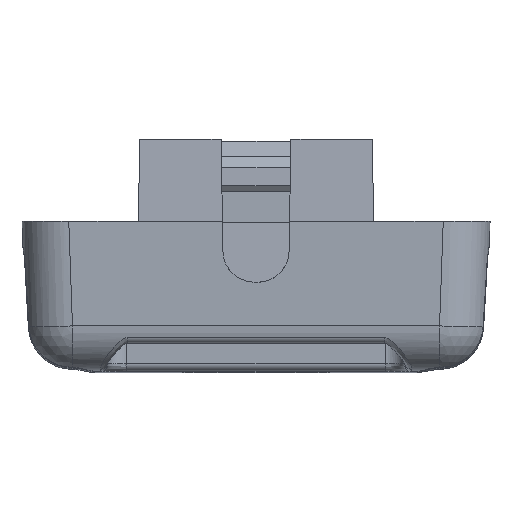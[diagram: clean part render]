
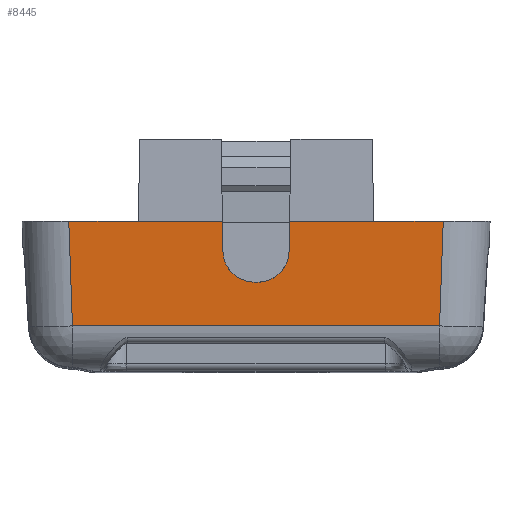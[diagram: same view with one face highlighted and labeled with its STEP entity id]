
A CAD part, top view. The second image highlights one B-rep face of the part: STEP entity #8445.
In plain terms, the highlighted planar face has unit normal (0, -0.035, 0.999).
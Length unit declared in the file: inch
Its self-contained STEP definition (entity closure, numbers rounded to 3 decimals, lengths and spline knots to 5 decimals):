
#135 = DIRECTION ( 'NONE',  ( 1., 0., 0. ) ) ;
#330 = VERTEX_POINT ( 'NONE', #2145 ) ;
#372 = ORIENTED_EDGE ( 'NONE', *, *, #6498, .F. ) ;
#428 = CARTESIAN_POINT ( 'NONE',  ( 7.00197, -2.20472, 1.1811 ) ) ;
#558 = VECTOR ( 'NONE', #7890, 39.37008 ) ;
#592 = EDGE_CURVE ( 'NONE', #3292, #8150, #4091, .T. ) ;
#778 = ORIENTED_EDGE ( 'NONE', *, *, #3095, .F. ) ;
#888 = LINE ( 'NONE', #7531, #7727 ) ;
#967 = CARTESIAN_POINT ( 'NONE',  ( 7.38361, -2.20472, 1.1811 ) ) ;
#990 = ORIENTED_EDGE ( 'NONE', *, *, #8311, .T. ) ;
#1033 = VERTEX_POINT ( 'NONE', #5227 ) ;
#1079 = ORIENTED_EDGE ( 'NONE', *, *, #7986, .F. ) ;
#1210 = CARTESIAN_POINT ( 'NONE',  ( 7.03654, -2.35827, 1.17574 ) ) ;
#1274 = PLANE ( 'NONE',  #1405 ) ;
#1320 = VERTEX_POINT ( 'NONE', #4408 ) ;
#1326 = CARTESIAN_POINT ( 'NONE',  ( 6.49606, -2.20472, 1.1811 ) ) ;
#1401 = DIRECTION ( 'NONE',  ( -1., 0., 0. ) ) ;
#1405 = AXIS2_PLACEMENT_3D ( 'NONE', #7251, #6704, #1401 ) ;
#1456 = VERTEX_POINT ( 'NONE', #7988 ) ;
#1557 = LINE ( 'NONE', #5574, #8606 ) ;
#1650 = DIRECTION ( 'NONE',  ( -1., 0., 0. ) ) ;
#1694 = LINE ( 'NONE', #5671, #5276 ) ;
#1695 = EDGE_CURVE ( 'NONE', #3260, #8150, #7929, .T. ) ;
#1888 = EDGE_CURVE ( 'NONE', #3260, #1033, #2892, .T. ) ;
#2067 = DIRECTION ( 'NONE',  ( 1., 0., 0. ) ) ;
#2122 = CARTESIAN_POINT ( 'NONE',  ( 7.0033, -2.2809, 1.17844 ) ) ;
#2145 = CARTESIAN_POINT ( 'NONE',  ( 7.16993, -2.2809, 1.17844 ) ) ;
#2243 = DIRECTION ( 'NONE',  ( -1., 0., 0. ) ) ;
#2252 = DIRECTION ( 'NONE',  ( 1., 0., 0. ) ) ;
#2399 = CARTESIAN_POINT ( 'NONE',  ( 7.54991, -2.46869, 1.17188 ) ) ;
#2470 = VECTOR ( 'NONE', #3441, 39.37008 ) ;
#2607 = VECTOR ( 'NONE', #2243, 39.37008 ) ;
#2892 = LINE ( 'NONE', #5565, #2607 ) ;
#3095 = EDGE_CURVE ( 'NONE', #8137, #1320, #1557, .T. ) ;
#3260 = VERTEX_POINT ( 'NONE', #967 ) ;
#3292 = VERTEX_POINT ( 'NONE', #2399 ) ;
#3363 = CARTESIAN_POINT ( 'NONE',  ( 7.13669, -2.35827, 1.17574 ) ) ;
#3441 = DIRECTION ( 'NONE',  ( 0.035, 0.999, 0.035 ) ) ;
#3473 =( BOUNDED_CURVE ( )  B_SPLINE_CURVE ( 3, ( #7229, #1210, #4819, #2122 ),
 .UNSPECIFIED., .F., .T. ) 
 B_SPLINE_CURVE_WITH_KNOTS ( ( 4, 4 ),
 ( 3.14159, 4.69494 ),
 .UNSPECIFIED. ) 
 CURVE ( )  GEOMETRIC_REPRESENTATION_ITEM ( )  RATIONAL_B_SPLINE_CURVE ( ( 1., 0.809, 0.809, 1. ) ) 
 REPRESENTATION_ITEM ( '' )  );
#3515 = VECTOR ( 'NONE', #5264, 39.37008 ) ;
#3569 = VECTOR ( 'NONE', #2067, 39.37008 ) ;
#3581 = ORIENTED_EDGE ( 'NONE', *, *, #5411, .T. ) ;
#3703 =( BOUNDED_CURVE ( )  B_SPLINE_CURVE ( 3, ( #4710, #5203, #3363, #7294 ),
 .UNSPECIFIED., .F., .T. ) 
 B_SPLINE_CURVE_WITH_KNOTS ( ( 4, 4 ),
 ( 4.72984, 6.28319 ),
 .UNSPECIFIED. ) 
 CURVE ( )  GEOMETRIC_REPRESENTATION_ITEM ( )  RATIONAL_B_SPLINE_CURVE ( ( 1., 0.809, 0.809, 1. ) ) 
 REPRESENTATION_ITEM ( '' )  );
#3774 = ORIENTED_EDGE ( 'NONE', *, *, #8456, .T. ) ;
#3805 = LINE ( 'NONE', #8411, #558 ) ;
#3817 = EDGE_CURVE ( 'NONE', #8197, #6862, #3473, .T. ) ;
#3853 = LINE ( 'NONE', #8636, #3515 ) ;
#3934 = ORIENTED_EDGE ( 'NONE', *, *, #8299, .F. ) ;
#3977 = CARTESIAN_POINT ( 'NONE',  ( 7.08203, -2.35827, 1.17574 ) ) ;
#3992 = EDGE_CURVE ( 'NONE', #8137, #1456, #3853, .T. ) ;
#4091 = LINE ( 'NONE', #8083, #2470 ) ;
#4196 = CARTESIAN_POINT ( 'NONE',  ( 6.49606, -2.35827, 1.17574 ) ) ;
#4408 = CARTESIAN_POINT ( 'NONE',  ( 6.78962, -2.20472, 1.1811 ) ) ;
#4539 = FACE_OUTER_BOUND ( 'NONE', #6909, .T. ) ;
#4710 = CARTESIAN_POINT ( 'NONE',  ( 7.16993, -2.2809, 1.17844 ) ) ;
#4716 = ORIENTED_EDGE ( 'NONE', *, *, #592, .T. ) ;
#4741 = VECTOR ( 'NONE', #135, 39.37008 ) ;
#4819 = CARTESIAN_POINT ( 'NONE',  ( 7.00409, -2.32638, 1.17685 ) ) ;
#4961 = LINE ( 'NONE', #7682, #8485 ) ;
#5203 = CARTESIAN_POINT ( 'NONE',  ( 7.16914, -2.32638, 1.17685 ) ) ;
#5227 = CARTESIAN_POINT ( 'NONE',  ( 7.17126, -2.20472, 1.1811 ) ) ;
#5264 = DIRECTION ( 'NONE',  ( 0.035, -0.999, -0.035 ) ) ;
#5276 = VECTOR ( 'NONE', #5586, 39.37008 ) ;
#5411 = EDGE_CURVE ( 'NONE', #7674, #1320, #4961, .T. ) ;
#5425 = ORIENTED_EDGE ( 'NONE', *, *, #1888, .T. ) ;
#5443 = ORIENTED_EDGE ( 'NONE', *, *, #3992, .T. ) ;
#5476 = LINE ( 'NONE', #4196, #4741 ) ;
#5565 = CARTESIAN_POINT ( 'NONE',  ( 0., -2.20472, 1.1811 ) ) ;
#5574 = CARTESIAN_POINT ( 'NONE',  ( 6.49606, -2.20472, 1.1811 ) ) ;
#5586 = DIRECTION ( 'NONE',  ( 0.017, 0.999, 0.035 ) ) ;
#5671 = CARTESIAN_POINT ( 'NONE',  ( 7.17105, -2.21649, 1.18069 ) ) ;
#6013 = CARTESIAN_POINT ( 'NONE',  ( 6.6141, -2.20472, 1.1811 ) ) ;
#6349 = CARTESIAN_POINT ( 'NONE',  ( 7.0912, -2.35827, 1.17574 ) ) ;
#6373 = ORIENTED_EDGE ( 'NONE', *, *, #1695, .F. ) ;
#6498 = EDGE_CURVE ( 'NONE', #330, #1033, #1694, .T. ) ;
#6704 = DIRECTION ( 'NONE',  ( 0., -0.035, 0.999 ) ) ;
#6862 = VERTEX_POINT ( 'NONE', #7672 ) ;
#6909 = EDGE_LOOP ( 'NONE', ( #1079, #3581, #778, #5443, #990, #4716, #6373, #5425, #372, #3774, #3934, #7082 ) ) ;
#7082 = ORIENTED_EDGE ( 'NONE', *, *, #3817, .T. ) ;
#7114 = VERTEX_POINT ( 'NONE', #6349 ) ;
#7229 = CARTESIAN_POINT ( 'NONE',  ( 7.08203, -2.35827, 1.17574 ) ) ;
#7251 = CARTESIAN_POINT ( 'NONE',  ( 6.49606, -2.20472, 1.1811 ) ) ;
#7294 = CARTESIAN_POINT ( 'NONE',  ( 7.0912, -2.35827, 1.17574 ) ) ;
#7395 = CARTESIAN_POINT ( 'NONE',  ( 7.55913, -2.20472, 1.1811 ) ) ;
#7531 = CARTESIAN_POINT ( 'NONE',  ( 7.66397, -2.46869, 1.17188 ) ) ;
#7672 = CARTESIAN_POINT ( 'NONE',  ( 7.0033, -2.2809, 1.17844 ) ) ;
#7674 = VERTEX_POINT ( 'NONE', #428 ) ;
#7682 = CARTESIAN_POINT ( 'NONE',  ( 0., -2.20472, 1.1811 ) ) ;
#7727 = VECTOR ( 'NONE', #8271, 39.37008 ) ;
#7890 = DIRECTION ( 'NONE',  ( 0.017, -0.999, -0.035 ) ) ;
#7929 = LINE ( 'NONE', #1326, #3569 ) ;
#7986 = EDGE_CURVE ( 'NONE', #7674, #6862, #3805, .T. ) ;
#7988 = CARTESIAN_POINT ( 'NONE',  ( 6.62332, -2.46869, 1.17188 ) ) ;
#8083 = CARTESIAN_POINT ( 'NONE',  ( 7.55783, -2.24176, 1.17981 ) ) ;
#8137 = VERTEX_POINT ( 'NONE', #6013 ) ;
#8150 = VERTEX_POINT ( 'NONE', #7395 ) ;
#8197 = VERTEX_POINT ( 'NONE', #3977 ) ;
#8271 = DIRECTION ( 'NONE',  ( 1., 0., 0. ) ) ;
#8299 = EDGE_CURVE ( 'NONE', #8197, #7114, #5476, .T. ) ;
#8311 = EDGE_CURVE ( 'NONE', #1456, #3292, #888, .T. ) ;
#8411 = CARTESIAN_POINT ( 'NONE',  ( 7.00181, -2.19591, 1.18141 ) ) ;
#8445 = ADVANCED_FACE ( 'NONE', ( #4539 ), #1274, .T. ) ;
#8456 = EDGE_CURVE ( 'NONE', #330, #7114, #3703, .T. ) ;
#8485 = VECTOR ( 'NONE', #1650, 39.37008 ) ;
#8606 = VECTOR ( 'NONE', #2252, 39.37008 ) ;
#8636 = CARTESIAN_POINT ( 'NONE',  ( 6.61396, -2.20061, 1.18125 ) ) ;
